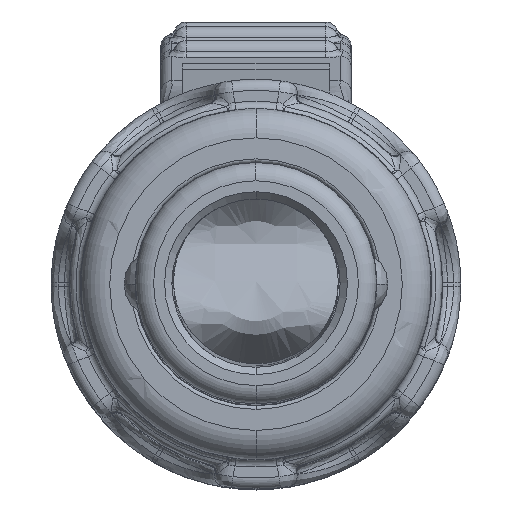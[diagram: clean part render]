
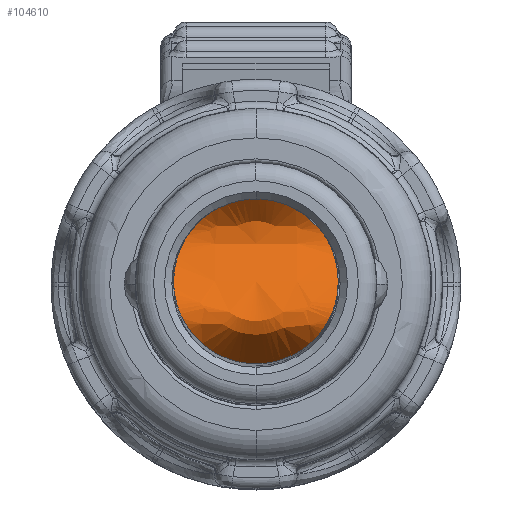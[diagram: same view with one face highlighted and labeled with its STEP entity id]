
A CAD part, top view. The second image highlights one B-rep face of the part: STEP entity #104610.
In plain terms, the highlighted face is a extrusion surface.
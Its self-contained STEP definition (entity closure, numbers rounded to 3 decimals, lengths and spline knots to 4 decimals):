
#104437=CARTESIAN_POINT('',(2.25,0.,67.172));
#104438=CARTESIAN_POINT('',(2.25,0.142,67.0874));
#104439=CARTESIAN_POINT('',(2.2238,0.4086,
66.9282));
#104440=CARTESIAN_POINT('',(2.1239,0.7718,
66.7544));
#104441=CARTESIAN_POINT('',(1.9776,1.0901,
66.6671));
#104442=CARTESIAN_POINT('',(1.7985,1.3662,
66.6588));
#104443=CARTESIAN_POINT('',(1.5613,1.6341,
66.7288));
#104444=CARTESIAN_POINT('',(1.2603,1.8796,
66.8793));
#104445=CARTESIAN_POINT('',(0.8796,2.0847,
67.0844));
#104446=CARTESIAN_POINT('',(0.5174,2.1994,
67.2353));
#104447=CARTESIAN_POINT('',(0.1702,2.2523,
67.3122));
#104448=CARTESIAN_POINT('',(-0.1689,2.2522,
67.3122));
#104449=CARTESIAN_POINT('',(-0.5154,2.2001,
67.2361));
#104450=CARTESIAN_POINT('',(-0.8802,2.0841,
67.0841));
#104451=CARTESIAN_POINT('',(-1.2516,1.885,
66.884));
#104452=CARTESIAN_POINT('',(-1.558,1.6376,
66.7301));
#104453=CARTESIAN_POINT('',(-1.7951,1.3704,
66.6594));
#104454=CARTESIAN_POINT('',(-1.9754,1.0943,
66.6664));
#104455=CARTESIAN_POINT('',(-2.1227,0.7753,
66.753));
#104456=CARTESIAN_POINT('',(-2.2235,0.4108,
66.9269));
#104457=CARTESIAN_POINT('',(-2.25,0.1428,67.0869));
#104458=CARTESIAN_POINT('',(-2.25,0.,67.172));
#104473=CARTESIAN_POINT('',(2.25,0.,67.172));
#104474=CARTESIAN_POINT('',(2.25,-0.0452,67.1989));
#104475=CARTESIAN_POINT('',(2.2473,-0.1355,
67.2526));
#104476=CARTESIAN_POINT('',(2.235,-0.271,
67.3294));
#104477=CARTESIAN_POINT('',(2.2139,-0.41,
67.4013));
#104478=CARTESIAN_POINT('',(2.1818,-0.5573,
67.4659));
#104479=CARTESIAN_POINT('',(2.1359,-0.7142,
67.5172));
#104480=CARTESIAN_POINT('',(2.0746,-0.877,
67.5462));
#104481=CARTESIAN_POINT('',(1.9965,-1.0433,
67.5456));
#104482=CARTESIAN_POINT('',(1.902,-1.2069,
67.5101));
#104483=CARTESIAN_POINT('',(1.7986,-1.3557,
67.4447));
#104484=CARTESIAN_POINT('',(1.6916,-1.4866,
67.3597));
#104485=CARTESIAN_POINT('',(1.5814,-1.6031,
67.2616));
#104486=CARTESIAN_POINT('',(1.4677,-1.7076,
67.1548));
#104487=CARTESIAN_POINT('',(1.3497,-1.8023,
67.0425));
#104488=CARTESIAN_POINT('',(1.2252,-1.8892,
66.9261));
#104489=CARTESIAN_POINT('',(1.0901,-1.9705,
66.8057));
#104490=CARTESIAN_POINT('',(0.9398,-2.0468,
66.6821));
#104491=CARTESIAN_POINT('',(0.7663,-2.1186,
66.5567));
#104492=CARTESIAN_POINT('',(0.562,-2.1826,
66.4372));
#104493=CARTESIAN_POINT('',(0.3261,-2.2312,
66.3414));
#104494=CARTESIAN_POINT('',(0.0573,-2.255,
66.2927));
#104495=CARTESIAN_POINT('',(-0.2215,-2.2446,
66.3142));
#104496=CARTESIAN_POINT('',(-0.4788,-2.2032,
66.3971));
#104497=CARTESIAN_POINT('',(-0.7135,-2.1382,
66.5213));
#104498=CARTESIAN_POINT('',(-0.9249,-2.0551,
66.669));
#104499=CARTESIAN_POINT('',(-1.1175,-1.9567,
66.8283));
#104500=CARTESIAN_POINT('',(-1.2896,-1.8473,
66.9854));
#104501=CARTESIAN_POINT('',(-1.4434,-1.7295,
67.1317));
#104502=CARTESIAN_POINT('',(-1.5839,-1.6018,
67.2643));
#104503=CARTESIAN_POINT('',(-1.713,-1.463,
67.3783));
#104504=CARTESIAN_POINT('',(-1.8326,-1.3104,
67.4693));
#104505=CARTESIAN_POINT('',(-1.9441,-1.1392,67.5306));
#104506=CARTESIAN_POINT('',(-2.0433,-0.9504,
67.5522));
#104507=CARTESIAN_POINT('',(-2.1246,-0.7505,
67.528));
#104508=CARTESIAN_POINT('',(-2.1816,-0.5612,
67.4687));
#104509=CARTESIAN_POINT('',(-2.2201,-0.3807,
67.3881));
#104510=CARTESIAN_POINT('',(-2.2442,-0.1947,
67.2876));
#104511=CARTESIAN_POINT('',(-2.25,-0.066,67.2113));
#104512=CARTESIAN_POINT('',(-2.25,0.,67.172));
#104539=VERTEX_POINT('',#104437);
#104540=VERTEX_POINT('',#104458);
#104590=CARTESIAN_POINT('',(-5.,2.2829,67.3586));
#104591=CARTESIAN_POINT('',(-5.,2.2719,67.3417));
#104592=CARTESIAN_POINT('',(-5.,1.8672,66.7308));
#104593=CARTESIAN_POINT('',(-5.,1.1031,66.506));
#104594=CARTESIAN_POINT('',(-5.,-0.4003,67.4191));
#104595=CARTESIAN_POINT('',(-5.,-1.4308,68.0059));
#104596=CARTESIAN_POINT('',(-5.,-2.2747,66.2521));
#104602=DIRECTION('',(-1.,0.,0.));
#104603=VECTOR('',#104602,1.);
#104604=SURFACE_OF_LINEAR_EXTRUSION('',#104597,#104603);
#104605=ORIENTED_EDGE('',*,*,#104565,.F.);
#104607=ORIENTED_EDGE('',*,*,#104606,.T.);
#104608=EDGE_LOOP('',(#104605,#104607));
#104609=FACE_OUTER_BOUND('',#104608,.F.);
#104459=B_SPLINE_CURVE_WITH_KNOTS('',3,(#104437,#104438,#104439,#104440,#104441,
#104442,#104443,#104444,#104445,#104446,#104447,#104448,#104449,#104450,#104451,
#104452,#104453,#104454,#104455,#104456,#104457,#104458),.UNSPECIFIED.,.F.,.F.,(
4,1,1,1,1,1,1,1,1,1,1,1,1,1,1,1,1,1,1,4),(0.,0.0526,
0.1053,0.1579,0.2105,0.2632,
0.3158,0.3684,0.4211,0.4737,
0.5263,0.5789,0.6316,0.6842,
0.7368,0.7895,0.8421,0.8947,
0.9474,1.),.UNSPECIFIED.);
#104513=B_SPLINE_CURVE_WITH_KNOTS('',3,(#104473,#104474,#104475,#104476,#104477,
#104478,#104479,#104480,#104481,#104482,#104483,#104484,#104485,#104486,#104487,
#104488,#104489,#104490,#104491,#104492,#104493,#104494,#104495,#104496,#104497,
#104498,#104499,#104500,#104501,#104502,#104503,#104504,#104505,#104506,#104507,
#104508,#104509,#104510,#104511,#104512),.UNSPECIFIED.,.F.,.F.,(4,1,1,1,1,1,1,1,
1,1,1,1,1,1,1,1,1,1,1,1,1,1,1,1,1,1,1,1,1,1,1,1,1,1,1,1,1,4),(0.,
0.027,0.0541,0.0811,0.1081,
0.1351,0.1622,0.1892,0.2162,
0.2432,0.2703,0.2973,0.3243,
0.3514,0.3784,0.4054,0.4324,
0.4595,0.4865,0.5135,0.5405,
0.5676,0.5946,0.6216,0.6486,
0.6757,0.7027,0.7297,0.7568,
0.7838,0.8108,0.8378,0.8649,
0.8919,0.9189,0.9459,0.973,1.),
.UNSPECIFIED.);
#104565=EDGE_CURVE('',#104539,#104540,#104459,.T.);
#104597=B_SPLINE_CURVE_WITH_KNOTS('',3,(#104590,#104591,#104592,#104593,#104594,
#104595,#104596),.UNSPECIFIED.,.F.,.F.,(4,1,1,1,4),(0.,0.0076,
0.2821,0.5108,1.),.UNSPECIFIED.);
#104606=EDGE_CURVE('',#104539,#104540,#104513,.T.);
#104610=ADVANCED_FACE('',(#104609),#104604,.F.);
